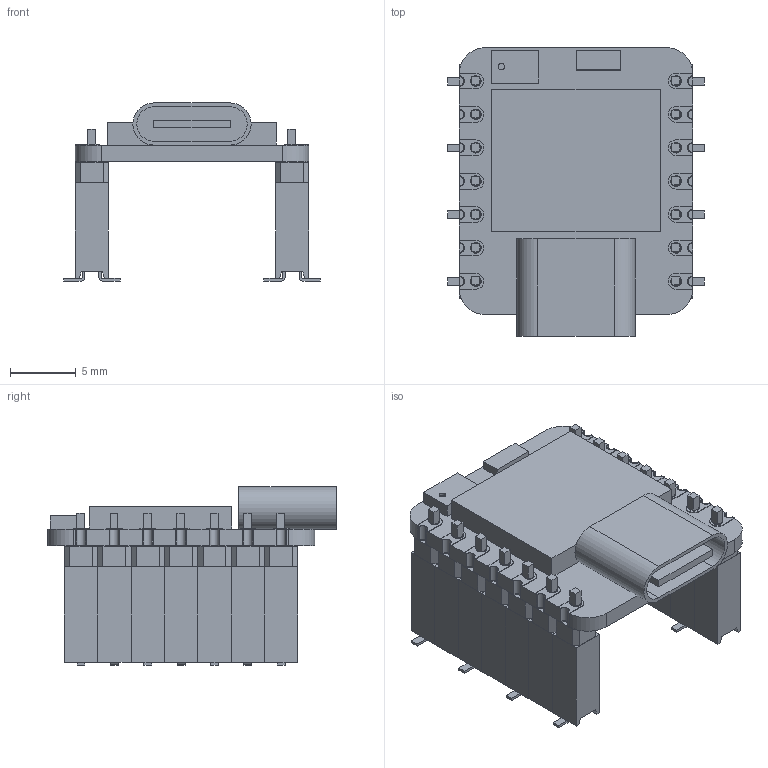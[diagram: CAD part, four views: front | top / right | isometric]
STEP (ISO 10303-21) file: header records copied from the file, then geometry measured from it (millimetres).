
FILE_DESCRIPTION(('FreeCAD Model'),'2;1');
FILE_NAME('Open CASCADE Shape Model','2025-02-25T21:02:01',( 'Krisjanis Rijnieks'),(''),'Open CASCADE STEP processor 7.7', 'FreeCAD','Unknown');
FILE_SCHEMA(('AUTOMOTIVE_DESIGN { 1 0 10303 214 1 1 1 1 }'));
Length unit declared in the file: millimetre
Products named in the file (103): Generic_InSocket_SMD; nRF52840_Sense001; SoC_nRF_Sense001; Mic_nRF_Sense001; Antenna_nRF_Sense001; XIAO_Generic001; Board001; USB001; Contact001; Contact Clones001; Body020; Body021; Body022; Body023; Body024; Body025; Body026; Body027; Body028; Body029; Body030; Body031; Body032; 01x03_P2.54mm_Vertical_SMD; 01x01_P2.54mm_Vertical_SMD003; Body003; Lead003; 01x01_P2.54mm_Vertical_SMD004; Body004; Lead004; 01x01_P2.54mm_Vertical_SMD005; Body005; Lead005; 01x04_P2.54mm_Vertical_SMD; 01x01_P2.54mm_Vertical_SMD006; Body006; Lead006; 01x01_P2.54mm_Vertical_SMD007; Body033; Lead007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
Assembly tree (102 placements, depth 5):
  Generic_InSocket_SMD
    nRF52840_Sense001
      SoC_nRF_Sense001
      Mic_nRF_Sense001
      Antenna_nRF_Sense001
      XIAO_Generic001
        Board001
        USB001
        Contact001
        Contact Clones001
          Body020
          Body021
          Body022
          Body023
          Body024
          Body025
          Body026
          Body027
          Body028
          Body029
          Body030
          Body031
          Body032
    01x03_P2.54mm_Vertical_SMD
      01x01_P2.54mm_Vertical_SMD003
        Body003
        Lead003
      01x01_P2.54mm_Vertical_SMD004
        Body004
        Lead004
      01x01_P2.54mm_Vertical_SMD005
        Body005
        Lead005
    01x04_P2.54mm_Vertical_SMD
      01x01_P2.54mm_Vertical_SMD006
        Body006
        Lead006
      01x01_P2.54mm_Vertical_SMD007
        Body033
        Lead007
      01x01_P2.54mm_Vertical_SMD008
        Body034
        Lead008
      01x01_P2.54mm_Vertical_SMD009
        Body035
        Lead009
    01x03_P2.54mm_Vertical_SMD001
      01x01_P2.54mm_Vertical_SMD010
        Body036
        Lead010
      01x01_P2.54mm_Vertical_SMD011
        Body037
        Lead011
      01x01_P2.54mm_Vertical_SMD012
        Body038
        Lead012
    01x04_P2.54mm_Vertical_SMD001
      01x01_P2.54mm_Vertical_SMD013
        Body039
        Lead013
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Bounding box: 19.54 x 21.97 x 13.56 mm (x, y, z)
Volume: 1545.5 mm3; surface area: 3941.4 mm2
Topology: 61 solids, 61 shells, 998 faces, 2451 edges, 1620 vertices
Faces by surface type: plane 849, cylinder 149
Full cylindrical faces by diameter (mm): 0.5 x1, 0.7 x14, 0.8 x28
Entity records: 32509 total; most frequent: CARTESIAN_POINT 5186, DIRECTION 4951, ORIENTED_EDGE 4902, EDGE_CURVE 2451, LINE 2125, VECTOR 2125, VERTEX_POINT 1620, AXIS2_PLACEMENT_3D 1413
